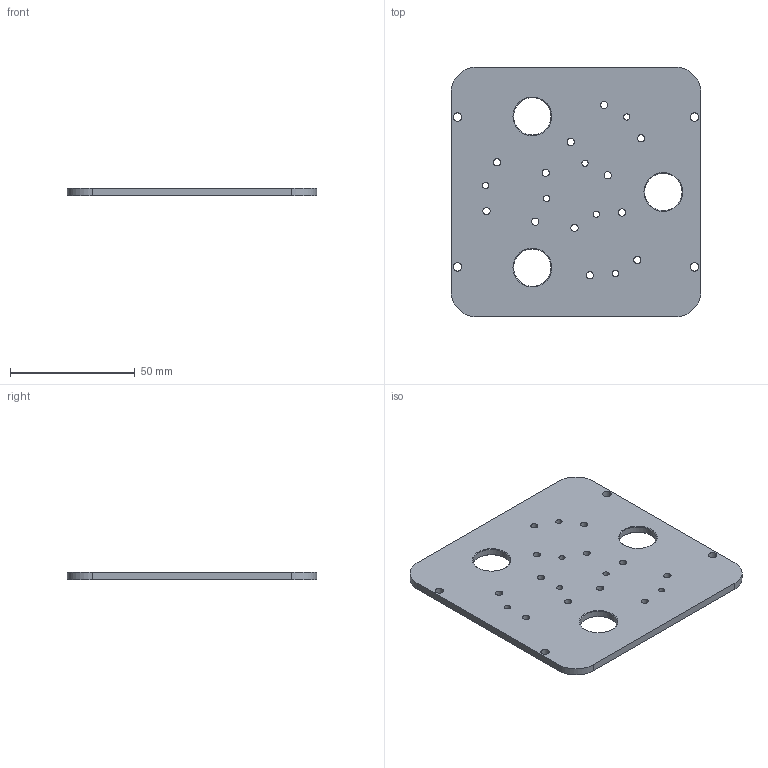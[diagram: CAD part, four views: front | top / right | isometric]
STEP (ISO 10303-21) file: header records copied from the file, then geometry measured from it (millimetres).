
FILE_DESCRIPTION(/* description */ (''),/* implementation_level */ '2;1');
FILE_NAME(/* name */ 'CWC-SE0003-P04_Sensing Adapter Plate.stp',/* time_stamp */ '2026-04-28T16:24:36+02:00',/* author */ (''),/* organization */ (''),/* preprocessor_version */ 'ST-DEVELOPER v18.1',/* originating_system */ 'SIEMENS PLM Software NX 1988',/* authorisation */ '');
FILE_SCHEMA (('AUTOMOTIVE_DESIGN { 1 0 10303 214 3 1 1 1 }'));
Length unit declared in the file: millimetre
Products named in the file (1): anto6558201A7f2b
Bounding box: 100 x 100 x 3 mm (x, y, z)
Volume: 27708 mm3; surface area: 20607.2 mm2
Topology: 1 solids, 1 shells, 41 faces, 111 edges, 72 vertices
Faces by surface type: cylinder 29, plane 6, cone 6
Full cylindrical faces by diameter (mm): 2.5 x6, 2.9 x12, 3.4 x4, 15 x3
Entity records: 1298 total; most frequent: DIRECTION 228, CARTESIAN_POINT 194, ORIENTED_EDGE 160, EDGE_LOOP 122, FACE_BOUND 114, AXIS2_PLACEMENT_3D 106, EDGE_CURVE 80, VERTEX_POINT 72
